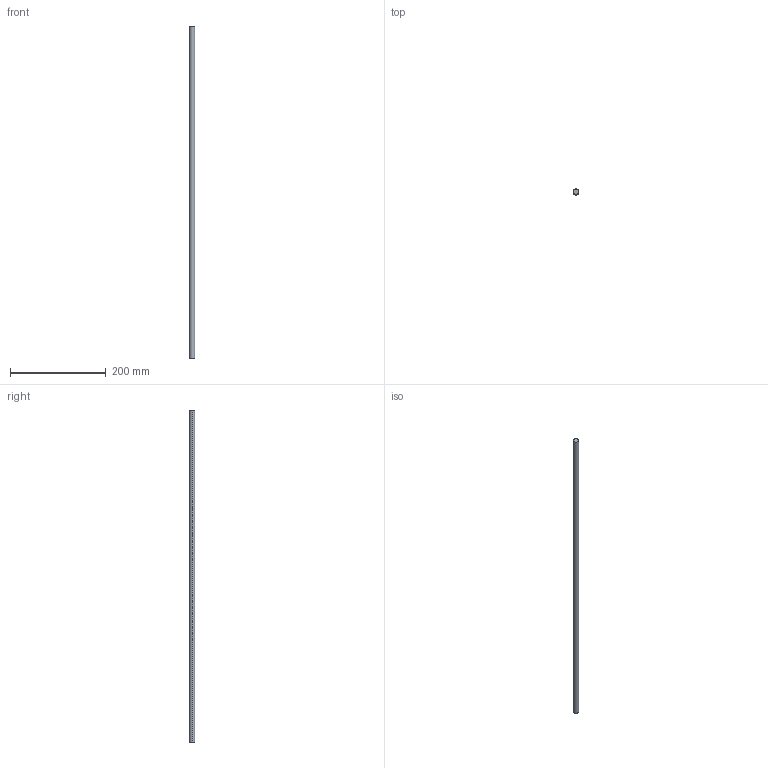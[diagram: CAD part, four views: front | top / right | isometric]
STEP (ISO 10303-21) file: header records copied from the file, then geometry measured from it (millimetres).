
FILE_DESCRIPTION (( 'STEP AP214' ), '1' );
FILE_NAME ('Magic Reling quer - S16_S17 - 800.step', '2010-09-07T14:56:08', ( 'grass' ), ( '' ), 'SwSTEP 2.0', 'SolidWorks 2010', '' );
FILE_SCHEMA (( 'AUTOMOTIVE_DESIGN' ));
Length unit declared in the file: millimetre
Products named in the file (1): Magic Reling quer - S16_S17 - 800
Bounding box: 12 x 12 x 695 mm (x, y, z)
Volume: 78602.6 mm3; surface area: 26427.1 mm2
Topology: 1 solids, 1 shells, 4 faces, 6 edges, 4 vertices
Faces by surface type: cylinder 2, plane 2
Entity records: 128 total; most frequent: DIRECTION 20, CARTESIAN_POINT 15, ORIENTED_EDGE 12, AXIS2_PLACEMENT_3D 9, EDGE_CURVE 6, VERTEX_POINT 4, ADVANCED_FACE 4, FACE_OUTER_BOUND 4
